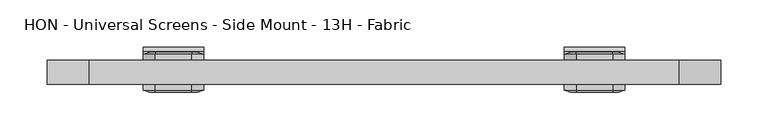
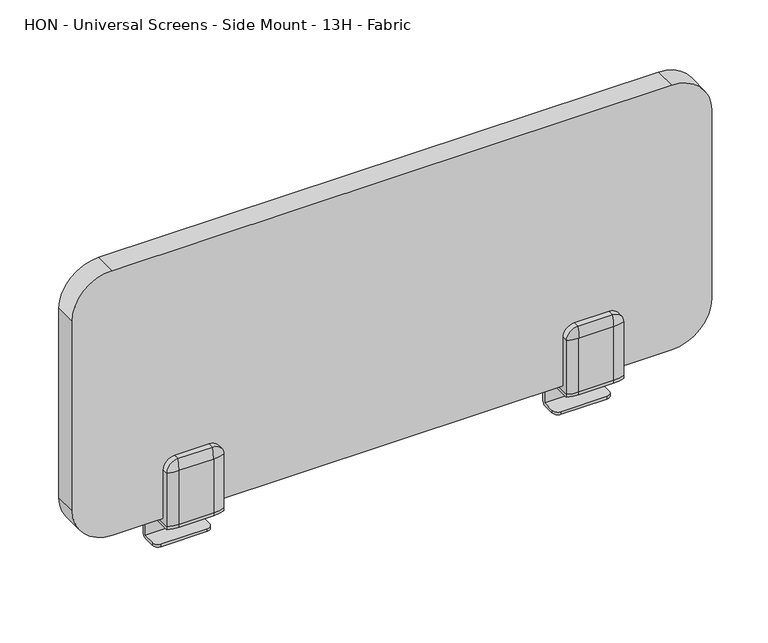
"""IFC4 building model written with IfcOpenShell, lengths in millimetres: furniture geometry."""

from ifc_helpers import new_model, si_unit, point, frame, frame_2d, origin, place, context, project, spatial, polyline, circle_curve, ellipse_curve, trimmed, segment, composite_curve, outline, extrude, source, transform, mapped, element, save
from ifc_brep_helpers import plane_surface, cylinder_surface, revolved_surface, advanced_brep


def hon_universal_screens_side_mount_13h_fabric_b37ea31b(model_context):
    return source(origin(), model_context, "Body", "SolidModel", [
        advanced_brep(
        [(545.9595047, -10.31875, 818.870911), (545.9595047, -10.31875, 762.0), (609.7404953, -10.31875, 762.0), (609.7404953, -10.31875, 818.870911), (597.0404953, -10.31875, 831.570911), (558.6595047, -10.31875, 831.570911), (558.6595047, -4.1099198, 831.570911), (545.9595047, -4.1099198, 818.870911), (597.0404953, -4.1099198, 831.570911), (609.7404953, -4.1099198, 818.870911), (609.7404953, -35.71875, 818.870911), (609.7404953, -35.71875, 762.0), (545.9595047, -35.71875, 762.0), (545.9595047, -35.71875, 818.870911), (558.6595047, -35.71875, 831.570911), (597.0404953, -35.71875, 831.570911), (545.9595047, -4.1099198, 755.6059258), (545.9595047, -10.31875, 755.6059258), (545.9595047, -41.9275802, 755.6059258), (545.9595047, -41.9275802, 818.870911), (558.6595047, -41.9275802, 831.570911), (597.0404953, -41.9275802, 831.570911), (609.7404953, -41.9275802, 818.870911), (609.7404953, -41.9275802, 755.6059258), (609.7404953, -10.31875, 755.6059258), (609.7404953, -4.1099198, 755.6059258), (558.6595047, -44.3088302, 755.6059258), (558.6595047, -1.7286698, 755.6059258), (597.0404953, -1.7286698, 755.6059258), (597.0404953, -44.3088302, 755.6059258), (597.0404953, -44.3088302, 818.870911), (558.6595047, -44.3088302, 818.870911), (597.0404953, -1.7286698, 818.870911), (558.6595047, -1.7286698, 818.870911)],
        [
            (0, 1),
            (1, 2),
            (2, 3),
            (3, 4, circle_curve(frame((597.0404953, -10.31875, 818.870911), z_axis=(0.0, -1.0, 0.0), x_axis=(-1.0, 0.0, 0.0)), 12.7)),
            (4, 5),
            (5, 0, circle_curve(frame((558.6595047, -10.31875, 818.870911), z_axis=(0.0, -1.0, 0.0), x_axis=(-1.0, 0.0, 0.0)), 12.7)),
            (5, 6),
            (6, 7, circle_curve(frame((558.6595047, -4.1099198, 818.870911), z_axis=(0.0, -1.0, 0.0), x_axis=(-1.0, 0.0, 0.0)), 12.7)),
            (7, 0),
            (4, 8),
            (8, 6),
            (3, 9),
            (9, 8, circle_curve(frame((597.0404953, -4.1099198, 818.870911), z_axis=(0.0, -1.0, 0.0), x_axis=(-1.0, 0.0, 0.0)), 12.7)),
            (10, 11),
            (11, 12),
            (12, 13),
            (13, 14, circle_curve(frame((558.6595047, -35.71875, 818.870911), z_axis=(0.0, 1.0, 0.0), x_axis=(-1.0, 0.0, 0.0)), 12.7)),
            (14, 15),
            (15, 10, circle_curve(frame((597.0404953, -35.71875, 818.870911), z_axis=(0.0, 1.0, 0.0), x_axis=(-1.0, 0.0, 0.0)), 12.7)),
            (12, 1),
            (7, 16),
            (16, 17),
            (17, 18),
            (18, 19),
            (19, 13),
            (19, 20, circle_curve(frame((558.6595047, -41.9275802, 818.870911), z_axis=(0.0, 1.0, 0.0), x_axis=(-1.0, 0.0, 0.0)), 12.7)),
            (20, 14),
            (20, 21),
            (21, 15),
            (21, 22, circle_curve(frame((597.0404953, -41.9275802, 818.870911), z_axis=(0.0, 1.0, 0.0), x_axis=(-1.0, 0.0, 0.0)), 12.7)),
            (22, 10),
            (22, 23),
            (23, 24),
            (24, 25),
            (25, 9),
            (2, 11),
            (26, 18, circle_curve(frame((558.6595047, -9.2515386, 755.6059258), z_axis=(0.0, 0.0, -1.0), x_axis=(0.0, 1.0, 0.0)), 35.0572917)),
            (16, 27, circle_curve(frame((558.6595047, -36.7859614, 755.6059258), z_axis=(0.0, 0.0, -1.0), x_axis=(0.0, 1.0, 0.0)), 35.0572917)),
            (27, 28),
            (28, 25, circle_curve(frame((597.0404953, -36.7859614, 755.6059258), z_axis=(0.0, 0.0, -1.0), x_axis=(0.0, 1.0, 0.0)), 35.0572917)),
            (23, 29, circle_curve(frame((597.0404953, -9.2515386, 755.6059258), z_axis=(0.0, 0.0, -1.0), x_axis=(0.0, 1.0, 0.0)), 35.0572917)),
            (29, 26),
            (29, 30),
            (30, 31),
            (31, 26),
            (28, 32),
            (32, 9, circle_curve(frame((597.0404953, -36.7859614, 818.870911), z_axis=(0.0, 0.0, -1.0), x_axis=(0.0, 1.0, 0.0)), 35.0572917)),
            (32, 8, circle_curve(frame((597.0404953, -36.7859614, 818.870911), z_axis=(1.0, 0.0, 0.0), x_axis=(0.0, 1.0, 0.0)), 35.0572917)),
            (32, 33),
            (33, 6, circle_curve(frame((558.6595047, -36.7859614, 818.870911), z_axis=(1.0, 0.0, 0.0), x_axis=(0.0, 1.0, 0.0)), 35.0572917)),
            (33, 7, circle_curve(frame((558.6595047, -36.7859614, 818.870911), z_axis=(0.0, 0.0, 1.0), x_axis=(0.0, 1.0, 0.0)), 35.0572917)),
            (33, 27),
            (31, 19, circle_curve(frame((558.6595047, -9.2515386, 818.870911), z_axis=(0.0, 0.0, -1.0), x_axis=(0.0, 1.0, 0.0)), 35.0572917)),
            (31, 20, circle_curve(frame((558.6595047, -9.2515386, 818.870911), z_axis=(-1.0, 0.0, 0.0), x_axis=(0.0, 1.0, 0.0)), 35.0572917)),
            (30, 21, circle_curve(frame((597.0404953, -9.2515386, 818.870911), z_axis=(-1.0, 0.0, 0.0), x_axis=(0.0, 1.0, 0.0)), 35.0572917)),
            (30, 22, circle_curve(frame((597.0404953, -9.2515386, 818.870911), z_axis=(0.0, 0.0, 1.0), x_axis=(0.0, 1.0, 0.0)), 35.0572917)),
        ],
        [
            plane_surface(frame((609.7404953, -10.31875, 755.6059258), z_axis=(0.0, -1.0, 0.0), x_axis=(-1.0, 0.0, 0.0))),
            cylinder_surface(frame((558.6595047, -10.31875, 818.870911), z_axis=(0.0, 1.0, 0.0), x_axis=(-1.0, 0.0, 0.0)), 12.7),
            plane_surface(frame((597.0404953, -4.1099198, 831.570911), z_axis=(0.0, 0.0, 1.0), x_axis=(0.0, -1.0, 0.0))),
            cylinder_surface(frame((597.0404953, -10.31875, 818.870911), z_axis=(0.0, 1.0, 0.0), x_axis=(-1.0, 0.0, 0.0)), 12.7),
            plane_surface(frame((545.9595047, -35.71875, 755.6059258), z_axis=(0.0, 1.0, 0.0), x_axis=(0.0, 0.0, -1.0))),
            plane_surface(frame((545.9595047, -41.9275802, 755.6059258), z_axis=(-1.0, 0.0, 0.0), x_axis=(0.0, 1.0, 0.0))),
            cylinder_surface(frame((558.6595047, -35.71875, 818.870911), z_axis=(0.0, -1.0, 0.0), x_axis=(-1.0, 0.0, 0.0)), 12.7),
            plane_surface(frame((558.6595047, -41.9275802, 831.570911), z_axis=(0.0, 0.0, 1.0), x_axis=(0.0, 1.0, 0.0))),
            cylinder_surface(frame((597.0404953, -35.71875, 818.870911), z_axis=(0.0, -1.0, 0.0), x_axis=(-1.0, 0.0, 0.0)), 12.7),
            plane_surface(frame((609.7404953, -41.9275802, 818.870911), z_axis=(1.0, 0.0, 0.0), x_axis=(0.0, 1.0, 0.0))),
            plane_surface(frame((609.7404953, -41.9275802, 755.6059258), z_axis=(0.0, 0.0, -1.0), x_axis=(0.0, 1.0, 0.0))),
            plane_surface(frame((597.0404953, -44.3088302, 755.6059258), z_axis=(0.0, -1.0, 0.0), x_axis=(0.0, 0.0, -1.0))),
            cylinder_surface(frame((597.0404953, -36.7859614, 755.6059258), z_axis=(0.0, 0.0, -1.0), x_axis=(0.0, 1.0, 0.0)), 35.0572917),
            revolved_surface(trimmed(ellipse_curve(frame((597.0404953, -36.7859614, 818.870911), z_axis=(0.0, 0.0, 1.0), x_axis=(0.0, 1.0, 0.0)), 35.0572917, 35.0572917), [point((609.7404953, -4.1099198, 818.870911))], [point((597.0404953, -1.7286698, 818.870911))], True, "CARTESIAN"), (597.0404953, -4.1099198, 818.870911), (0.0, 1.0, 0.0)),
            cylinder_surface(frame((597.0404953, -36.7859614, 818.870911), z_axis=(1.0, 0.0, 0.0), x_axis=(0.0, 1.0, 0.0)), 35.0572917),
            revolved_surface(trimmed(ellipse_curve(frame((558.6595047, -36.7859614, 818.870911), z_axis=(-1.0, 0.0, 0.0), x_axis=(0.0, 1.0, 0.0)), 35.0572917, 35.0572917), [point((558.6595047, -4.1099198, 831.570911))], [point((558.6595047, -1.7286698, 818.870911))], True, "CARTESIAN"), (558.6595047, -4.1099198, 818.870911), (0.0, 1.0, 0.0)),
            cylinder_surface(frame((558.6595047, -36.7859614, 818.870911), z_axis=(0.0, 0.0, 1.0), x_axis=(0.0, 1.0, 0.0)), 35.0572917),
            cylinder_surface(frame((558.6595047, -9.2515386, 755.6059258), z_axis=(0.0, 0.0, -1.0), x_axis=(0.0, 1.0, 0.0)), 35.0572917),
            revolved_surface(trimmed(ellipse_curve(frame((558.6595047, -9.2515386, 818.870911), z_axis=(0.0, 0.0, 1.0), x_axis=(0.0, 1.0, 0.0)), 35.0572917, 35.0572917), [point((545.9595047, -41.9275802, 818.870911))], [point((558.6595047, -44.3088302, 818.870911))], True, "CARTESIAN"), (558.6595047, -41.9275802, 818.870911), (0.0, -1.0, 0.0)),
            cylinder_surface(frame((558.6595047, -9.2515386, 818.870911), z_axis=(-1.0, 0.0, 0.0), x_axis=(0.0, 1.0, 0.0)), 35.0572917),
            revolved_surface(trimmed(ellipse_curve(frame((597.0404953, -9.2515386, 818.870911), z_axis=(1.0, 0.0, 0.0), x_axis=(0.0, 1.0, 0.0)), 35.0572917, 35.0572917), [point((597.0404953, -41.9275802, 831.570911))], [point((597.0404953, -44.3088302, 818.870911))], True, "CARTESIAN"), (597.0404953, -41.9275802, 818.870911), (0.0, -1.0, 0.0)),
            cylinder_surface(frame((597.0404953, -9.2515386, 818.870911), z_axis=(0.0, 0.0, 1.0), x_axis=(0.0, 1.0, 0.0)), 35.0572917),
            plane_surface(frame((597.0404953, -1.7286698, 818.870911), z_axis=(0.0, 1.0, 0.0), x_axis=(-1.0, 0.0, 0.0))),
            plane_surface(frame((545.9595047, -10.31875, 762.0), z_axis=(0.0, 0.0, 1.0), x_axis=(1.0, 0.0, 0.0))),
        ],
        [
            (0, [[1, 2, 3, 4, 5, 6]]),
            (1, [[7, 8, 9, -6]]),
            (2, [[10, 11, -7, -5]]),
            (3, [[12, 13, -10, -4]]),
            (4, [[14, 15, 16, 17, 18, 19]]),
            (5, [[-16, 20, -1, -9, 21, 22, 23, 24, 25]]),
            (6, [[-25, 26, 27, -17]]),
            (7, [[-27, 28, 29, -18]]),
            (8, [[-29, 30, 31, -19]]),
            (9, [[32, 33, 34, 35, -12, -3, 36, -14, -31]]),
            (10, [[37, -23, -22, 38, 39, 40, -34, -33, 41, 42]]),
            (11, [[43, 44, 45, -42]]),
            (12, [[46, 47, -35, -40]]),
            (13, [[48, -13, -47]]),
            (14, [[49, 50, -11, -48]]),
            (15, [[51, -8, -50]]),
            (16, [[52, -38, -21, -51]]),
            (17, [[-45, 53, -24, -37]]),
            (18, [[54, -26, -53]]),
            (19, [[-44, 55, -28, -54]]),
            (20, [[56, -30, -55]]),
            (21, [[-43, -41, -32, -56]]),
            (22, [[-52, -49, -46, -39]]),
            (23, [[-15, -36, -2, -20]]),
        ],
    ),
        advanced_brep(
        [(545.9595047, 0.0, 752.3801052), (545.9595047, -41.9275802, 752.3801052), (545.9595047, -41.9275802, 755.6059258), (545.9595047, -1.5367036, 755.6059258), (545.9595047, 3.2257964, 750.8434258), (545.9595047, 3.2257964, 721.9810384), (545.9595047, -1.5367036, 717.2185384), (545.9595047, -14.3128982, 717.2185384), (545.9595047, -14.3128982, 720.4442862), (545.9595047, 0.0, 720.4442862), (609.7404953, -1.5367036, 755.6059258), (609.7404953, -41.9275802, 755.6059258), (609.7404953, -41.9275802, 752.3801052), (609.7404953, 0.0, 752.3801052), (609.7404953, 0.0, 720.4442862), (609.7404953, -14.3128982, 720.4442862), (609.7404953, -14.3128982, 717.2185384), (609.7404953, -1.5367036, 717.2185384), (609.7404953, 3.2257964, 721.9810384), (609.7404953, 3.2257964, 750.8434258), (558.6595047, -44.3088302, 755.6059258), (597.0404953, -44.3088302, 755.6059258), (597.0404953, -44.3088302, 752.3801052), (558.6595047, -44.3088302, 752.3801052), (552.3095047, -20.6628982, 720.4442862), (603.3904953, -20.6628982, 720.4442862), (603.3904953, -20.6628982, 717.2185384), (552.3095047, -20.6628982, 717.2185384)],
        [
            (0, 1),
            (1, 2),
            (2, 3),
            (3, 4, circle_curve(frame((545.9595047, -1.5367036, 750.8434258), z_axis=(-1.0, 0.0, 0.0), x_axis=(0.0, -1.0, 0.0)), 4.7625)),
            (4, 5),
            (5, 6, circle_curve(frame((545.9595047, -1.5367036, 721.9810384), z_axis=(-1.0, 0.0, 0.0), x_axis=(0.0, -1.0, 0.0)), 4.7625)),
            (6, 7),
            (7, 8),
            (8, 9),
            (9, 0),
            (10, 11),
            (11, 12),
            (12, 13),
            (13, 14),
            (14, 15),
            (15, 16),
            (16, 17),
            (17, 18, circle_curve(frame((609.7404953, -1.5367036, 721.9810384), z_axis=(1.0, 0.0, 0.0), x_axis=(0.0, -1.0, 0.0)), 4.7625)),
            (18, 19),
            (19, 10, circle_curve(frame((609.7404953, -1.5367036, 750.8434258), z_axis=(1.0, 0.0, 0.0), x_axis=(0.0, -1.0, 0.0)), 4.7625)),
            (2, 20, circle_curve(frame((558.6595047, -9.2515386, 755.6059258), z_axis=(0.0, 0.0, 1.0), x_axis=(0.0, 1.0, 0.0)), 35.0572917)),
            (20, 21),
            (21, 11, circle_curve(frame((597.0404953, -9.2515386, 755.6059258), z_axis=(0.0, 0.0, 1.0), x_axis=(0.0, 1.0, 0.0)), 35.0572917)),
            (10, 3),
            (12, 22, circle_curve(frame((597.0404953, -9.2515386, 752.3801052), z_axis=(0.0, 0.0, -1.0), x_axis=(0.0, 1.0, 0.0)), 35.0572917)),
            (22, 23),
            (23, 1, circle_curve(frame((558.6595047, -9.2515386, 752.3801052), z_axis=(0.0, 0.0, -1.0), x_axis=(0.0, 1.0, 0.0)), 35.0572917)),
            (0, 13),
            (9, 14),
            (8, 24, circle_curve(frame((552.3095047, -14.3128982, 720.4442862), z_axis=(0.0, 0.0, 1.0), x_axis=(0.0, 1.0, 0.0)), 6.35)),
            (24, 25),
            (25, 15, circle_curve(frame((603.3904953, -14.3128982, 720.4442862), z_axis=(0.0, 0.0, 1.0), x_axis=(0.0, 1.0, 0.0)), 6.35)),
            (16, 26, circle_curve(frame((603.3904953, -14.3128982, 717.2185384), z_axis=(0.0, 0.0, -1.0), x_axis=(0.0, 1.0, 0.0)), 6.35)),
            (26, 27),
            (27, 7, circle_curve(frame((552.3095047, -14.3128982, 717.2185384), z_axis=(0.0, 0.0, -1.0), x_axis=(0.0, 1.0, 0.0)), 6.35)),
            (6, 17),
            (5, 18),
            (4, 19),
            (27, 24),
            (26, 25),
            (22, 21),
            (20, 23),
        ],
        [
            plane_surface(frame((545.9595047, -112.8495344, 755.6059258), z_axis=(-1.0, 0.0, 0.0), x_axis=(0.0, -1.0, 0.0))),
            plane_surface(frame((609.7404953, -112.8495344, 755.6059258), z_axis=(1.0, 0.0, 0.0), x_axis=(0.0, 1.0, 0.0))),
            plane_surface(frame((545.9595047, -1.5367036, 755.6059258), z_axis=(0.0, 0.0, 1.0), x_axis=(1.0, 0.0, 0.0))),
            plane_surface(frame((545.9595047, -46.1750292, 752.3801052), z_axis=(0.0, 0.0, -1.0), x_axis=(1.0, 0.0, 0.0))),
            plane_surface(frame((545.9595047, 0.0, 752.3801052), z_axis=(0.0, -1.0, 0.0), x_axis=(1.0, 0.0, 0.0))),
            plane_surface(frame((545.9595047, 0.0, 720.4442862), z_axis=(0.0, 0.0, 1.0), x_axis=(1.0, 0.0, 0.0))),
            plane_surface(frame((545.9595047, -28.6257965, 717.2185384), z_axis=(0.0, 0.0, -1.0), x_axis=(1.0, 0.0, 0.0))),
            cylinder_surface(frame((609.7404953, -1.5367036, 721.9810384), z_axis=(-1.0, 0.0, 0.0), x_axis=(0.0, -1.0, 0.0)), 4.7625),
            plane_surface(frame((545.9595047, 3.2257964, 721.9810384), z_axis=(0.0, 1.0, 0.0), x_axis=(1.0, 0.0, 0.0))),
            cylinder_surface(frame((609.7404953, -1.5367036, 750.8434258), z_axis=(-1.0, 0.0, 0.0), x_axis=(0.0, -1.0, 0.0)), 4.7625),
            cylinder_surface(frame((552.3095047, -14.3128982, 720.4442862), z_axis=(0.0, 0.0, 1.0), x_axis=(0.0, 1.0, 0.0)), 6.35),
            plane_surface(frame((603.3904953, -20.6628982, 717.2185384), z_axis=(0.0, -1.0, 0.0), x_axis=(0.0, 0.0, 1.0))),
            cylinder_surface(frame((603.3904953, -14.3128982, 720.4442862), z_axis=(0.0, 0.0, 1.0), x_axis=(0.0, 1.0, 0.0)), 6.35),
            plane_surface(frame((597.0404953, -44.3088302, 752.3801052), z_axis=(0.0, -1.0, 0.0), x_axis=(0.0, 0.0, 1.0))),
            cylinder_surface(frame((558.6595047, -9.2515386, 755.6059258), z_axis=(0.0, 0.0, 1.0), x_axis=(0.0, 1.0, 0.0)), 35.0572917),
            cylinder_surface(frame((597.0404953, -9.2515386, 755.6059258), z_axis=(0.0, 0.0, 1.0), x_axis=(0.0, 1.0, 0.0)), 35.0572917),
        ],
        [
            (0, [[1, 2, 3, 4, 5, 6, 7, 8, 9, 10]]),
            (1, [[11, 12, 13, 14, 15, 16, 17, 18, 19, 20]]),
            (2, [[-3, 21, 22, 23, -11, 24]]),
            (3, [[-13, 25, 26, 27, -1, 28]]),
            (4, [[29, -14, -28, -10]]),
            (5, [[-9, 30, 31, 32, -15, -29]]),
            (6, [[-17, 33, 34, 35, -7, 36]]),
            (7, [[37, -18, -36, -6]]),
            (8, [[38, -19, -37, -5]]),
            (9, [[-24, -20, -38, -4]]),
            (10, [[-30, -8, -35, 39]]),
            (11, [[-34, 40, -31, -39]]),
            (12, [[-33, -16, -32, -40]]),
            (13, [[-26, 41, -22, 42]]),
            (14, [[-21, -2, -27, -42]]),
            (15, [[-25, -12, -23, -41]]),
        ],
    ),
        advanced_brep(
        [(165.2404953, -10.31875, 818.870911), (152.5404953, -10.31875, 831.570911), (114.1595047, -10.31875, 831.570911), (101.4595047, -10.31875, 818.870911), (101.4595047, -10.31875, 762.0), (165.2404953, -10.31875, 762.0), (165.2404953, -4.1099198, 818.870911), (152.5404953, -4.1099198, 831.570911), (114.1595047, -4.1099198, 831.570911), (101.4595047, -4.1099198, 818.870911), (101.4595047, -35.71875, 818.870911), (114.1595047, -35.71875, 831.570911), (152.5404953, -35.71875, 831.570911), (165.2404953, -35.71875, 818.870911), (165.2404953, -35.71875, 762.0), (101.4595047, -35.71875, 762.0), (165.2404953, -41.9275802, 818.870911), (165.2404953, -41.9275802, 755.6059258), (165.2404953, -10.31875, 755.6059258), (165.2404953, -4.1099198, 755.6059258), (152.5404953, -41.9275802, 831.570911), (114.1595047, -41.9275802, 831.570911), (101.4595047, -41.9275802, 818.870911), (101.4595047, -4.1099198, 755.6059258), (101.4595047, -10.31875, 755.6059258), (101.4595047, -41.9275802, 755.6059258), (152.5404953, -44.3088302, 755.6059258), (114.1595047, -44.3088302, 755.6059258), (114.1595047, -1.7286698, 755.6059258), (152.5404953, -1.7286698, 755.6059258), (152.5404953, -44.3088302, 818.870911), (114.1595047, -44.3088302, 818.870911), (114.1595047, -1.7286698, 818.870911), (152.5404953, -1.7286698, 818.870911)],
        [
            (0, 1, circle_curve(frame((152.5404953, -10.31875, 818.870911), z_axis=(0.0, -1.0, 0.0), x_axis=(1.0, 0.0, 0.0)), 12.7)),
            (1, 2),
            (2, 3, circle_curve(frame((114.1595047, -10.31875, 818.870911), z_axis=(0.0, -1.0, 0.0), x_axis=(1.0, 0.0, 0.0)), 12.7)),
            (3, 4),
            (4, 5),
            (5, 0),
            (0, 6),
            (6, 7, circle_curve(frame((152.5404953, -4.1099198, 818.870911), z_axis=(0.0, -1.0, 0.0), x_axis=(1.0, 0.0, 0.0)), 12.7)),
            (7, 1),
            (7, 8),
            (8, 2),
            (8, 9, circle_curve(frame((114.1595047, -4.1099198, 818.870911), z_axis=(0.0, -1.0, 0.0), x_axis=(1.0, 0.0, 0.0)), 12.7)),
            (9, 3),
            (10, 11, circle_curve(frame((114.1595047, -35.71875, 818.870911), z_axis=(0.0, 1.0, 0.0), x_axis=(1.0, 0.0, 0.0)), 12.7)),
            (11, 12),
            (12, 13, circle_curve(frame((152.5404953, -35.71875, 818.870911), z_axis=(0.0, 1.0, 0.0), x_axis=(1.0, 0.0, 0.0)), 12.7)),
            (13, 14),
            (14, 15),
            (15, 10),
            (13, 16),
            (16, 17),
            (17, 18),
            (18, 19),
            (19, 6),
            (5, 14),
            (12, 20),
            (20, 16, circle_curve(frame((152.5404953, -41.9275802, 818.870911), z_axis=(0.0, 1.0, 0.0), x_axis=(1.0, 0.0, 0.0)), 12.7)),
            (11, 21),
            (21, 20),
            (10, 22),
            (22, 21, circle_curve(frame((114.1595047, -41.9275802, 818.870911), z_axis=(0.0, 1.0, 0.0), x_axis=(1.0, 0.0, 0.0)), 12.7)),
            (15, 4),
            (9, 23),
            (23, 24),
            (24, 25),
            (25, 22),
            (26, 27),
            (27, 25, circle_curve(frame((114.1595047, -9.2515386, 755.6059258), z_axis=(0.0, 0.0, -1.0), x_axis=(0.0, 1.0, 0.0)), 35.0572917)),
            (23, 28, circle_curve(frame((114.1595047, -36.7859614, 755.6059258), z_axis=(0.0, 0.0, -1.0), x_axis=(0.0, 1.0, 0.0)), 35.0572917)),
            (28, 29),
            (29, 19, circle_curve(frame((152.5404953, -36.7859614, 755.6059258), z_axis=(0.0, 0.0, -1.0), x_axis=(0.0, 1.0, 0.0)), 35.0572917)),
            (17, 26, circle_curve(frame((152.5404953, -9.2515386, 755.6059258), z_axis=(0.0, 0.0, -1.0), x_axis=(0.0, 1.0, 0.0)), 35.0572917)),
            (26, 30),
            (30, 31),
            (31, 27),
            (9, 32, circle_curve(frame((114.1595047, -36.7859614, 818.870911), z_axis=(0.0, 0.0, -1.0), x_axis=(0.0, 1.0, 0.0)), 35.0572917)),
            (32, 28),
            (8, 32, circle_curve(frame((114.1595047, -36.7859614, 818.870911), z_axis=(-1.0, 0.0, 0.0), x_axis=(0.0, 1.0, 0.0)), 35.0572917)),
            (7, 33, circle_curve(frame((152.5404953, -36.7859614, 818.870911), z_axis=(-1.0, 0.0, 0.0), x_axis=(0.0, 1.0, 0.0)), 35.0572917)),
            (33, 32),
            (6, 33, circle_curve(frame((152.5404953, -36.7859614, 818.870911), z_axis=(0.0, 0.0, 1.0), x_axis=(0.0, 1.0, 0.0)), 35.0572917)),
            (29, 33),
            (16, 30, circle_curve(frame((152.5404953, -9.2515386, 818.870911), z_axis=(0.0, 0.0, -1.0), x_axis=(0.0, 1.0, 0.0)), 35.0572917)),
            (20, 30, circle_curve(frame((152.5404953, -9.2515386, 818.870911), z_axis=(1.0, 0.0, 0.0), x_axis=(0.0, 1.0, 0.0)), 35.0572917)),
            (21, 31, circle_curve(frame((114.1595047, -9.2515386, 818.870911), z_axis=(1.0, 0.0, 0.0), x_axis=(0.0, 1.0, 0.0)), 35.0572917)),
            (22, 31, circle_curve(frame((114.1595047, -9.2515386, 818.870911), z_axis=(0.0, 0.0, 1.0), x_axis=(0.0, 1.0, 0.0)), 35.0572917)),
        ],
        [
            plane_surface(frame((101.4595047, -10.31875, 755.6059258), z_axis=(0.0, -1.0, 0.0), x_axis=(1.0, 0.0, 0.0))),
            cylinder_surface(frame((152.5404953, -10.31875, 818.870911), z_axis=(0.0, 1.0, 0.0), x_axis=(1.0, 0.0, 0.0)), 12.7),
            plane_surface(frame((114.1595047, -4.1099198, 831.570911), z_axis=(0.0, 0.0, 1.0), x_axis=(0.0, -1.0, 0.0))),
            cylinder_surface(frame((114.1595047, -10.31875, 818.870911), z_axis=(0.0, 1.0, 0.0), x_axis=(1.0, 0.0, 0.0)), 12.7),
            plane_surface(frame((165.2404953, -35.71875, 755.6059258), z_axis=(0.0, 1.0, 0.0), x_axis=(0.0, 0.0, -1.0))),
            plane_surface(frame((165.2404953, -41.9275802, 755.6059258), z_axis=(1.0, 0.0, 0.0), x_axis=(0.0, 1.0, 0.0))),
            cylinder_surface(frame((152.5404953, -35.71875, 818.870911), z_axis=(0.0, -1.0, 0.0), x_axis=(1.0, 0.0, 0.0)), 12.7),
            plane_surface(frame((152.5404953, -41.9275802, 831.570911), z_axis=(0.0, 0.0, 1.0), x_axis=(0.0, 1.0, 0.0))),
            cylinder_surface(frame((114.1595047, -35.71875, 818.870911), z_axis=(0.0, -1.0, 0.0), x_axis=(1.0, 0.0, 0.0)), 12.7),
            plane_surface(frame((101.4595047, -41.9275802, 818.870911), z_axis=(-1.0, 0.0, 0.0), x_axis=(0.0, 1.0, 0.0))),
            plane_surface(frame((101.4595047, -41.9275802, 755.6059258), z_axis=(0.0, 0.0, -1.0), x_axis=(0.0, 1.0, 0.0))),
            plane_surface(frame((114.1595047, -44.3088302, 755.6059258), z_axis=(0.0, -1.0, 0.0), x_axis=(0.0, 0.0, -1.0))),
            cylinder_surface(frame((114.1595047, -36.7859614, 755.6059258), z_axis=(0.0, 0.0, -1.0), x_axis=(0.0, 1.0, 0.0)), 35.0572917),
            revolved_surface(trimmed(ellipse_curve(frame((114.1595047, -36.7859614, 818.870911), z_axis=(0.0, 0.0, -1.0), x_axis=(0.0, 1.0, 0.0)), 35.0572917, 35.0572917), [point((101.4595047, -4.1099198, 818.870911))], [point((114.1595047, -1.7286698, 818.870911))], True, "CARTESIAN"), (114.1595047, -4.1099198, 818.870911), (0.0, 1.0, 0.0)),
            cylinder_surface(frame((114.1595047, -36.7859614, 818.870911), z_axis=(-1.0, 0.0, 0.0), x_axis=(0.0, 1.0, 0.0)), 35.0572917),
            revolved_surface(trimmed(ellipse_curve(frame((152.5404953, -36.7859614, 818.870911), z_axis=(-1.0, 0.0, 0.0), x_axis=(0.0, 1.0, 0.0)), 35.0572917, 35.0572917), [point((152.5404953, -4.1099198, 831.570911))], [point((152.5404953, -1.7286698, 818.870911))], True, "CARTESIAN"), (152.5404953, -4.1099198, 818.870911), (0.0, 1.0, 0.0)),
            cylinder_surface(frame((152.5404953, -36.7859614, 818.870911), z_axis=(0.0, 0.0, 1.0), x_axis=(0.0, 1.0, 0.0)), 35.0572917),
            cylinder_surface(frame((152.5404953, -9.2515386, 755.6059258), z_axis=(0.0, 0.0, -1.0), x_axis=(0.0, 1.0, 0.0)), 35.0572917),
            revolved_surface(trimmed(ellipse_curve(frame((152.5404953, -9.2515386, 818.870911), z_axis=(0.0, 0.0, -1.0), x_axis=(0.0, 1.0, 0.0)), 35.0572917, 35.0572917), [point((165.2404953, -41.9275802, 818.870911))], [point((152.5404953, -44.3088302, 818.870911))], True, "CARTESIAN"), (152.5404953, -41.9275802, 818.870911), (0.0, -1.0, 0.0)),
            cylinder_surface(frame((152.5404953, -9.2515386, 818.870911), z_axis=(1.0, 0.0, 0.0), x_axis=(0.0, 1.0, 0.0)), 35.0572917),
            revolved_surface(trimmed(ellipse_curve(frame((114.1595047, -9.2515386, 818.870911), z_axis=(1.0, 0.0, 0.0), x_axis=(0.0, 1.0, 0.0)), 35.0572917, 35.0572917), [point((114.1595047, -41.9275802, 831.570911))], [point((114.1595047, -44.3088302, 818.870911))], True, "CARTESIAN"), (114.1595047, -41.9275802, 818.870911), (0.0, -1.0, 0.0)),
            cylinder_surface(frame((114.1595047, -9.2515386, 818.870911), z_axis=(0.0, 0.0, 1.0), x_axis=(0.0, 1.0, 0.0)), 35.0572917),
            plane_surface(frame((114.1595047, -1.7286698, 818.870911), z_axis=(0.0, 1.0, 0.0), x_axis=(1.0, 0.0, 0.0))),
            plane_surface(frame((165.2404953, -10.31875, 762.0), z_axis=(0.0, 0.0, 1.0), x_axis=(-1.0, 0.0, 0.0))),
        ],
        [
            (0, [[1, 2, 3, 4, 5, 6]]),
            (1, [[-1, 7, 8, 9]]),
            (2, [[-2, -9, 10, 11]]),
            (3, [[-3, -11, 12, 13]]),
            (4, [[14, 15, 16, 17, 18, 19]]),
            (5, [[20, 21, 22, 23, 24, -7, -6, 25, -17]]),
            (6, [[-16, 26, 27, -20]]),
            (7, [[-15, 28, 29, -26]]),
            (8, [[-14, 30, 31, -28]]),
            (9, [[-30, -19, 32, -4, -13, 33, 34, 35, 36]]),
            (10, [[37, 38, -35, -34, 39, 40, 41, -23, -22, 42]]),
            (11, [[-37, 43, 44, 45]]),
            (12, [[-39, -33, 46, 47]]),
            (13, [[-46, -12, 48]]),
            (14, [[-48, -10, 49, 50]]),
            (15, [[-49, -8, 51]]),
            (16, [[-51, -24, -41, 52]]),
            (17, [[-42, -21, 53, -43]]),
            (18, [[-53, -27, 54]]),
            (19, [[-54, -29, 55, -44]]),
            (20, [[-55, -31, 56]]),
            (21, [[-56, -36, -38, -45]]),
            (22, [[-40, -47, -50, -52]]),
            (23, [[-25, -5, -32, -18]]),
        ],
    ),
        advanced_brep(
        [(165.2404953, 0.0, 752.3801052), (165.2404953, 0.0, 720.4442862), (165.2404953, -14.3128982, 720.4442862), (165.2404953, -14.3128982, 717.2185384), (165.2404953, -1.5367036, 717.2185384), (165.2404953, 3.2257964, 721.9810384), (165.2404953, 3.2257964, 750.8434258), (165.2404953, -1.5367036, 755.6059258), (165.2404953, -41.9275802, 755.6059258), (165.2404953, -41.9275802, 752.3801052), (101.4595047, -1.5367036, 755.6059258), (101.4595047, 3.2257964, 750.8434258), (101.4595047, 3.2257964, 721.9810384), (101.4595047, -1.5367036, 717.2185384), (101.4595047, -14.3128982, 717.2185384), (101.4595047, -14.3128982, 720.4442862), (101.4595047, 0.0, 720.4442862), (101.4595047, 0.0, 752.3801052), (101.4595047, -41.9275802, 752.3801052), (101.4595047, -41.9275802, 755.6059258), (114.1595047, -44.3088302, 755.6059258), (152.5404953, -44.3088302, 755.6059258), (152.5404953, -44.3088302, 752.3801052), (114.1595047, -44.3088302, 752.3801052), (107.8095047, -20.6628982, 720.4442862), (158.8904953, -20.6628982, 720.4442862), (158.8904953, -20.6628982, 717.2185384), (107.8095047, -20.6628982, 717.2185384)],
        [
            (0, 1),
            (1, 2),
            (2, 3),
            (3, 4),
            (4, 5, circle_curve(frame((165.2404953, -1.5367036, 721.9810384), z_axis=(1.0, 0.0, 0.0), x_axis=(0.0, -1.0, 0.0)), 4.7625)),
            (5, 6),
            (6, 7, circle_curve(frame((165.2404953, -1.5367036, 750.8434258), z_axis=(1.0, 0.0, 0.0), x_axis=(0.0, -1.0, 0.0)), 4.7625)),
            (7, 8),
            (8, 9),
            (9, 0),
            (10, 11, circle_curve(frame((101.4595047, -1.5367036, 750.8434258), z_axis=(-1.0, 0.0, 0.0), x_axis=(0.0, -1.0, 0.0)), 4.7625)),
            (11, 12),
            (12, 13, circle_curve(frame((101.4595047, -1.5367036, 721.9810384), z_axis=(-1.0, 0.0, 0.0), x_axis=(0.0, -1.0, 0.0)), 4.7625)),
            (13, 14),
            (14, 15),
            (15, 16),
            (16, 17),
            (17, 18),
            (18, 19),
            (19, 10),
            (7, 10),
            (19, 20, circle_curve(frame((114.1595047, -9.2515386, 755.6059258), z_axis=(0.0, 0.0, 1.0), x_axis=(0.0, 1.0, 0.0)), 35.0572917)),
            (20, 21),
            (21, 8, circle_curve(frame((152.5404953, -9.2515386, 755.6059258), z_axis=(0.0, 0.0, 1.0), x_axis=(0.0, 1.0, 0.0)), 35.0572917)),
            (17, 0),
            (9, 22, circle_curve(frame((152.5404953, -9.2515386, 752.3801052), z_axis=(0.0, 0.0, -1.0), x_axis=(0.0, 1.0, 0.0)), 35.0572917)),
            (22, 23),
            (23, 18, circle_curve(frame((114.1595047, -9.2515386, 752.3801052), z_axis=(0.0, 0.0, -1.0), x_axis=(0.0, 1.0, 0.0)), 35.0572917)),
            (16, 1),
            (15, 24, circle_curve(frame((107.8095047, -14.3128982, 720.4442862), z_axis=(0.0, 0.0, 1.0), x_axis=(0.0, 1.0, 0.0)), 6.35)),
            (24, 25),
            (25, 2, circle_curve(frame((158.8904953, -14.3128982, 720.4442862), z_axis=(0.0, 0.0, 1.0), x_axis=(0.0, 1.0, 0.0)), 6.35)),
            (13, 4),
            (3, 26, circle_curve(frame((158.8904953, -14.3128982, 717.2185384), z_axis=(0.0, 0.0, -1.0), x_axis=(0.0, 1.0, 0.0)), 6.35)),
            (26, 27),
            (27, 14, circle_curve(frame((107.8095047, -14.3128982, 717.2185384), z_axis=(0.0, 0.0, -1.0), x_axis=(0.0, 1.0, 0.0)), 6.35)),
            (12, 5),
            (11, 6),
            (25, 26),
            (24, 27),
            (22, 21),
            (20, 23),
        ],
        [
            plane_surface(frame((165.2404953, -112.8495344, 755.6059258), z_axis=(1.0, 0.0, 0.0), x_axis=(0.0, -1.0, 0.0))),
            plane_surface(frame((101.4595047, -112.8495344, 755.6059258), z_axis=(-1.0, 0.0, 0.0), x_axis=(0.0, 1.0, 0.0))),
            plane_surface(frame((165.2404953, -1.5367036, 755.6059258), z_axis=(0.0, 0.0, 1.0), x_axis=(-1.0, 0.0, 0.0))),
            plane_surface(frame((165.2404953, -46.1750292, 752.3801052), z_axis=(0.0, 0.0, -1.0), x_axis=(-1.0, 0.0, 0.0))),
            plane_surface(frame((165.2404953, 0.0, 752.3801052), z_axis=(0.0, -1.0, 0.0), x_axis=(-1.0, 0.0, 0.0))),
            plane_surface(frame((165.2404953, 0.0, 720.4442862), z_axis=(0.0, 0.0, 1.0), x_axis=(-1.0, 0.0, 0.0))),
            plane_surface(frame((165.2404953, -28.6257965, 717.2185384), z_axis=(0.0, 0.0, -1.0), x_axis=(-1.0, 0.0, 0.0))),
            cylinder_surface(frame((101.4595047, -1.5367036, 721.9810384), z_axis=(1.0, 0.0, 0.0), x_axis=(0.0, -1.0, 0.0)), 4.7625),
            plane_surface(frame((165.2404953, 3.2257964, 721.9810384), z_axis=(0.0, 1.0, 0.0), x_axis=(-1.0, 0.0, 0.0))),
            cylinder_surface(frame((101.4595047, -1.5367036, 750.8434258), z_axis=(1.0, 0.0, 0.0), x_axis=(0.0, -1.0, 0.0)), 4.7625),
            cylinder_surface(frame((158.8904953, -14.3128982, 720.4442862), z_axis=(0.0, 0.0, 1.0), x_axis=(0.0, 1.0, 0.0)), 6.35),
            plane_surface(frame((107.8095047, -20.6628982, 717.2185384), z_axis=(0.0, -1.0, 0.0), x_axis=(0.0, 0.0, 1.0))),
            cylinder_surface(frame((107.8095047, -14.3128982, 720.4442862), z_axis=(0.0, 0.0, 1.0), x_axis=(0.0, 1.0, 0.0)), 6.35),
            plane_surface(frame((114.1595047, -44.3088302, 752.3801052), z_axis=(0.0, -1.0, 0.0), x_axis=(0.0, 0.0, 1.0))),
            cylinder_surface(frame((152.5404953, -9.2515386, 755.6059258), z_axis=(0.0, 0.0, 1.0), x_axis=(0.0, 1.0, 0.0)), 35.0572917),
            cylinder_surface(frame((114.1595047, -9.2515386, 755.6059258), z_axis=(0.0, 0.0, 1.0), x_axis=(0.0, 1.0, 0.0)), 35.0572917),
        ],
        [
            (0, [[1, 2, 3, 4, 5, 6, 7, 8, 9, 10]]),
            (1, [[11, 12, 13, 14, 15, 16, 17, 18, 19, 20]]),
            (2, [[21, -20, 22, 23, 24, -8]]),
            (3, [[25, -10, 26, 27, 28, -18]]),
            (4, [[-1, -25, -17, 29]]),
            (5, [[-29, -16, 30, 31, 32, -2]]),
            (6, [[33, -4, 34, 35, 36, -14]]),
            (7, [[-5, -33, -13, 37]]),
            (8, [[-6, -37, -12, 38]]),
            (9, [[-7, -38, -11, -21]]),
            (10, [[39, -34, -3, -32]]),
            (11, [[-39, -31, 40, -35]]),
            (12, [[-40, -30, -15, -36]]),
            (13, [[41, -23, 42, -27]]),
            (14, [[-41, -26, -9, -24]]),
            (15, [[-42, -22, -19, -28]]),
        ],
    ),
        extrude(outline(composite_curve([segment(polyline([(1073.15, 666.75), (1073.15, 44.45)]), True, "CONTINUOUS"), segment(trimmed(circle_curve(frame_2d((1028.7, 44.45)), 44.45), [point((1073.15, 44.45))], [point((1028.7, 0.0))], False, "CARTESIAN"), True, "CONTINUOUS"), segment(polyline([(1028.7, 0.0), (806.45, 0.0)]), True, "CONTINUOUS"), segment(trimmed(circle_curve(frame_2d((806.45, 44.45)), 44.45), [point((806.45, 0.0))], [point((762.0, 44.45))], False, "CARTESIAN"), True, "CONTINUOUS"), segment(polyline([(762.0, 44.45), (762.0, 666.75)]), True, "CONTINUOUS"), segment(trimmed(circle_curve(frame_2d((806.45, 666.75)), 44.45), [point((762.0, 666.75))], [point((806.45, 711.2))], False, "CARTESIAN"), True, "CONTINUOUS"), segment(polyline([(806.45, 711.2), (1028.7, 711.2)]), True, "CONTINUOUS"), segment(trimmed(circle_curve(frame_2d((1028.7, 666.75)), 44.45), [point((1028.7, 711.2))], [point((1073.15, 666.75))], False, "CARTESIAN"), True, "CONTINUOUS")], self_intersect=False)), frame((0.0, -35.71875, 0.0), z_axis=(0.0, 1.0, 0.0), x_axis=(0.0, 0.0, 1.0)), (0.0, 0.0, 1.0), 25.4),
    ])


if __name__ == "__main__":
    model = new_model("IFC4")
    model_context = context("Model", 3, world=origin())
    ifc_project = project(units=[si_unit("LENGTHUNIT", "METRE", prefix="MILLI")], contexts=[model_context])
    site = spatial("IfcSite", under=ifc_project)
    building = spatial("IfcBuilding", under=site)
    placement = place(None, origin())
    hon_universal_screens_side_mount_13h_fabric_shape = hon_universal_screens_side_mount_13h_fabric_b37ea31b(model_context)
    element("IfcFurniture", 1, ObjectType="HON - Universal Screens - Side Mount - 13H - Fabric : 13\"H x 28\"W", at=placement, inside=building, context=model_context, shape_type="MappedRepresentation", body=[
        mapped(hon_universal_screens_side_mount_13h_fabric_shape, transform((0.0, 0.0, 0.0), x_axis=(1.0, 0.0, 0.0), y_axis=(0.0, 1.0, 0.0), z_axis=(0.0, 0.0, 1.0))),
    ])
    save(model, "model.ifc")
